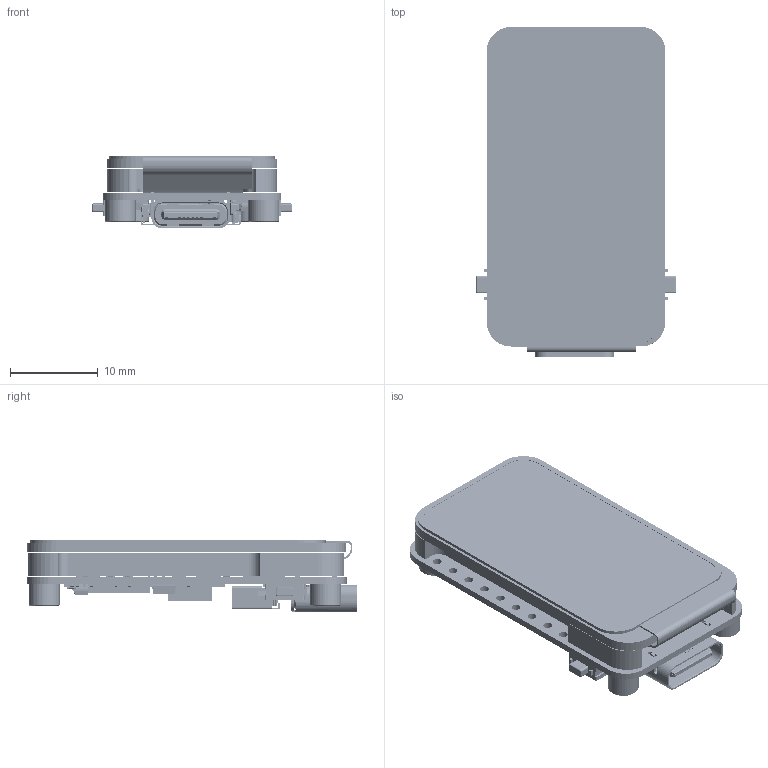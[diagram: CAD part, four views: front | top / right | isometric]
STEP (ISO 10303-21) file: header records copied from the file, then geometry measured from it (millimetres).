
FILE_DESCRIPTION((''),'2;1');
FILE_NAME('ESP32-S3-LCD-1_47B_ASM','2025-06-11T16:27:40',('xiaojisheng'),(''),'CREO PARAMETRIC BY PTC INC, 2021063','CREO PARAMETRIC BY PTC INC, 2021063','');
FILE_SCHEMA(('CONFIG_CONTROL_DESIGN','SHAPE_APPEARANCE_LAYERS_GROUPS'));
Products named in the file (156): 1_47INCH-172X320-LCD; BOARD; _2_1_2_3_4_AF0; _7_1_2_AF0; 5_1_2_3_400; R_0603-3601_AF0_ASM_ASM; R_0603-3615_AF0_ASM_ASM; R0603_ASM; R32_ASM; USER_LIBRARY-0201_0603M__CAP_1; USER_LIBRARY-0201_0603M__CAP_2; USER_LIBRARY-0201_0603M__CAP_3; USER_LIBRARY-0201_0603M__CAP_ASM; C25_ASM; EXTRUDED-66940; 94538944_ASM; Y1_ASM; SOT23-5AND6_00; SOT23-5-14065_AF0; SOT23-5-14113_AF0_ASM_ASM; SOT23-5-2_ASM; U5_ASM; CYLINDER-124167; 751304432_ASM; EXTRUDED-124313; 94543808_ASM; U3_ASM; EXTRUDED-124708; 718781712_ASM; U1_ASM; USER_LIBRARY-RES_0603-0201_1; USER_LIBRARY-RES_0603-0201_2; USER_LIBRARY-RES_0603-0201_3; USER_LIBRARY-RES_0603-0201_4; USER_LIBRARY-RES_0603-0201_ASM; R31_ASM; R30_ASM; R29_ASM; R28_ASM; R27_ASM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
Assembly tree (217 placements, depth 8):
  ESP32-S3-LCD-1_47B_ASM
    1_47INCH-172X320-LCD
    ESP32-S3-LCD-1_47B-PCB_ASM
      PCB_ASM
        BOARD
        R32_ASM
          R0603_ASM
            R_0603-3615_AF0_ASM_ASM
              R_0603-3601_AF0_ASM_ASM
                _2_1_2_3_4_AF0
                _7_1_2_AF0
                5_1_2_3_400
        C25_ASM
          USER_LIBRARY-0201_0603M__CAP_ASM
            USER_LIBRARY-0201_0603M__CAP_1
            USER_LIBRARY-0201_0603M__CAP_2
            USER_LIBRARY-0201_0603M__CAP_3
        Y1_ASM
          94538944_ASM
            EXTRUDED-66940
        U5_ASM
          SOT23-5-2_ASM
            SOT23-5-14113_AF0_ASM_ASM
              SOT23-5AND6_00  x5
              SOT23-5-14065_AF0
        U3_ASM
          751304432_ASM
            CYLINDER-124167
          94543808_ASM
            EXTRUDED-124313
        U1_ASM
          718781712_ASM
            EXTRUDED-124708
        R31_ASM
          USER_LIBRARY-RES_0603-0201_ASM
            USER_LIBRARY-RES_0603-0201_1
            USER_LIBRARY-RES_0603-0201_2
            USER_LIBRARY-RES_0603-0201_3
            USER_LIBRARY-RES_0603-0201_4
        R30_ASM
          R0603_ASM
            R_0603-3615_AF0_ASM_ASM
              R_0603-3601_AF0_ASM_ASM
                _2_1_2_3_4_AF0
                _7_1_2_AF0
                5_1_2_3_400
        R29_ASM
          USER_LIBRARY-RES_0603-0201_ASM
            USER_LIBRARY-RES_0603-0201_1
            USER_LIBRARY-RES_0603-0201_2
            USER_LIBRARY-RES_0603-0201_3
            USER_LIBRARY-RES_0603-0201_4
        R28_ASM
          USER_LIBRARY-RES_0603-0201_ASM
            USER_LIBRARY-RES_0603-0201_1
            USER_LIBRARY-RES_0603-0201_2
            USER_LIBRARY-RES_0603-0201_3
            USER_LIBRARY-RES_0603-0201_4
        R27_ASM
          USER_LIBRARY-RES_0603-0201_ASM
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Bounding box: 22.72 x 37.58 x 8.3 mm (x, y, z)
Volume: 2982.8 mm3; surface area: 7190.1 mm2
Topology: 267 solids, 281 shells, 13256 faces, 34986 edges, 22764 vertices
Faces by surface type: plane 8434, extrusion 2728, cylinder 1709, sphere 251, cone 60, torus 40, bspline 34
Entity records: 255773 total; most frequent: CARTESIAN_POINT 59275, ORIENTED_EDGE 33808, DIRECTION 30079, EDGE_CURVE 16906, VECTOR 13841, LINE 13150, VERTEX_POINT 11141, PRESENTATION_STYLE_ASSIGNMENT 10027
